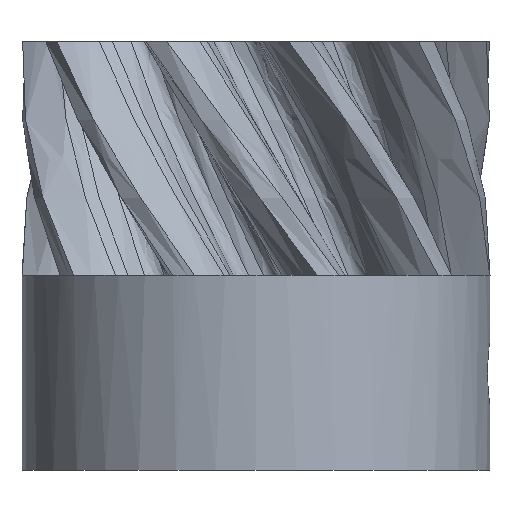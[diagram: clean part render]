
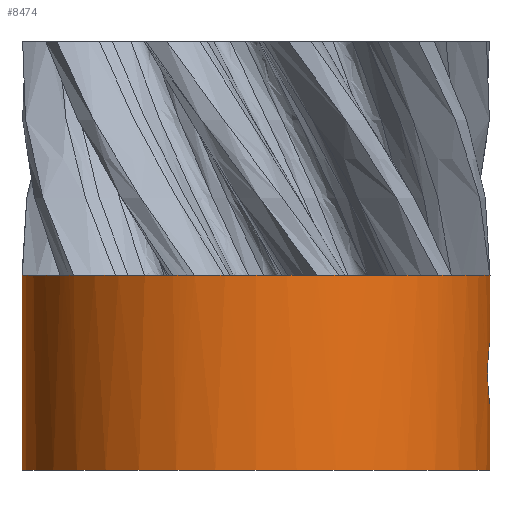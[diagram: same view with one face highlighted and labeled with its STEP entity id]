
A CAD part, front view. The second image highlights one B-rep face of the part: STEP entity #8474.
In plain terms, the highlighted cylindrical face has radius 12 mm (diameter 24 mm), a partial arc.
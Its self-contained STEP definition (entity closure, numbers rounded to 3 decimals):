
#1221=CARTESIAN_POINT('',(50.043,-6.571,59.));
#1230=CARTESIAN_POINT('',(49.353,-7.521,59.));
#1235=CARTESIAN_POINT('',(40.,0.,59.));
#1236=DIRECTION('',(0.,0.,1.));
#1237=DIRECTION('',(0.779,-0.627,0.));
#1238=AXIS2_PLACEMENT_3D('',#1235,#1236,#1237);
#1319=CARTESIAN_POINT('',(44.263,-11.219,59.));
#1328=CARTESIAN_POINT('',(43.146,-11.582,59.));
#1333=CARTESIAN_POINT('',(40.,0.,59.));
#1334=DIRECTION('',(0.,0.,1.));
#1335=DIRECTION('',(0.262,-0.965,0.));
#1336=AXIS2_PLACEMENT_3D('',#1333,#1334,#1335);
#1417=CARTESIAN_POINT('',(36.854,-11.582,59.));
#1426=CARTESIAN_POINT('',(35.737,-11.219,59.));
#1431=CARTESIAN_POINT('',(40.,0.,59.));
#1432=DIRECTION('',(0.,0.,1.));
#1433=DIRECTION('',(-0.355,-0.935,0.));
#1434=AXIS2_PLACEMENT_3D('',#1431,#1432,#1433);
#1515=CARTESIAN_POINT('',(30.647,-7.521,59.));
#1524=CARTESIAN_POINT('',(29.957,-6.571,59.));
#1529=CARTESIAN_POINT('',(40.,0.,59.));
#1530=DIRECTION('',(0.,0.,1.));
#1531=DIRECTION('',(-0.837,-0.547,0.));
#1532=AXIS2_PLACEMENT_3D('',#1529,#1530,#1531);
#1613=CARTESIAN_POINT('',(28.013,-0.587,59.));
#2127=CARTESIAN_POINT('',(40.,0.,59.));
#2128=DIRECTION('',(0.,0.,1.));
#2129=DIRECTION('',(0.837,-0.547,0.));
#2130=AXIS2_PLACEMENT_3D('',#2127,#2128,#2129);
#2201=CARTESIAN_POINT('',(51.987,-0.587,59.));
#2209=CARTESIAN_POINT('',(51.879,-1.7,54.));
#2210=CARTESIAN_POINT('',(51.879,-1.7,53.871));
#2211=CARTESIAN_POINT('',(51.883,-1.671,53.622));
#2212=CARTESIAN_POINT('',(51.899,-1.553,53.279));
#2213=CARTESIAN_POINT('',(51.923,-1.363,52.959));
#2214=CARTESIAN_POINT('',(51.952,-1.087,52.673));
#2215=CARTESIAN_POINT('',(51.977,-0.765,
52.467));
#2216=CARTESIAN_POINT('',(51.995,-0.409,
52.335));
#2217=CARTESIAN_POINT('',(52.,-0.141,52.3));
#2218=CARTESIAN_POINT('',(52.,0.,52.3));
#2223=DIRECTION('',(0.,0.,1.));
#2224=VECTOR('',#2223,3.3);
#2225=CARTESIAN_POINT('',(52.,0.,49.));
#2226=LINE('',#2225,#2224);
#2230=CARTESIAN_POINT('',(40.,0.,59.));
#2231=DIRECTION('',(0.,0.,-1.));
#2232=DIRECTION('',(-0.999,-0.049,0.));
#2233=AXIS2_PLACEMENT_3D('',#2230,#2231,#2232);
#2238=CARTESIAN_POINT('',(40.,0.,59.));
#2239=DIRECTION('',(0.,0.,-1.));
#2240=DIRECTION('',(1.,0.,0.));
#2241=AXIS2_PLACEMENT_3D('',#2238,#2239,#2240);
#2246=DIRECTION('',(0.,0.,1.));
#2247=VECTOR('',#2246,3.3);
#2248=CARTESIAN_POINT('',(52.,0.,55.7));
#2249=LINE('',#2248,#2247);
#2260=CARTESIAN_POINT('',(51.879,-1.7,54.));
#2261=CARTESIAN_POINT('',(51.879,-1.7,54.132));
#2262=CARTESIAN_POINT('',(51.884,-1.669,54.392));
#2263=CARTESIAN_POINT('',(51.901,-1.543,54.747));
#2264=CARTESIAN_POINT('',(51.927,-1.334,55.08));
#2265=CARTESIAN_POINT('',(51.956,-1.04,55.364));
#2266=CARTESIAN_POINT('',(51.98,-0.717,
55.556));
#2267=CARTESIAN_POINT('',(51.996,-0.364,
55.674));
#2268=CARTESIAN_POINT('',(52.,-0.121,55.7));
#2269=CARTESIAN_POINT('',(52.,0.,55.7));
#2419=CARTESIAN_POINT('',(40.,0.,49.));
#2420=DIRECTION('',(0.,0.,1.));
#2421=DIRECTION('',(-1.,0.,0.));
#2422=AXIS2_PLACEMENT_3D('',#2419,#2420,#2421);
#2494=DIRECTION('',(0.,0.,1.));
#2495=VECTOR('',#2494,10.);
#2496=CARTESIAN_POINT('',(28.,0.,49.));
#2497=LINE('',#2496,#2495);
#3006=CARTESIAN_POINT('',(40.,0.,59.));
#3007=DIRECTION('',(0.,0.,1.));
#3008=DIRECTION('',(-0.999,-0.049,0.));
#3009=AXIS2_PLACEMENT_3D('',#3006,#3007,#3008);
#3088=CARTESIAN_POINT('',(40.,0.,59.));
#3089=DIRECTION('',(0.,0.,1.));
#3090=DIRECTION('',(-0.779,-0.627,0.));
#3091=AXIS2_PLACEMENT_3D('',#3088,#3089,#3090);
#3170=CARTESIAN_POINT('',(40.,0.,59.));
#3171=DIRECTION('',(0.,0.,1.));
#3172=DIRECTION('',(-0.262,-0.965,0.));
#3173=AXIS2_PLACEMENT_3D('',#3170,#3171,#3172);
#3252=CARTESIAN_POINT('',(40.,0.,59.));
#3253=DIRECTION('',(0.,0.,1.));
#3254=DIRECTION('',(0.355,-0.935,0.));
#3255=AXIS2_PLACEMENT_3D('',#3252,#3253,#3254);
#3461=VERTEX_POINT('',#2201);
#3468=VERTEX_POINT('',#1221);
#3471=VERTEX_POINT('',#1230);
#3490=VERTEX_POINT('',#1319);
#3493=VERTEX_POINT('',#1328);
#3512=VERTEX_POINT('',#1417);
#3515=VERTEX_POINT('',#1426);
#3534=VERTEX_POINT('',#1515);
#3537=VERTEX_POINT('',#1524);
#3556=VERTEX_POINT('',#1613);
#3576=VERTEX_POINT('',#2260);
#3577=VERTEX_POINT('',#2269);
#3605=CARTESIAN_POINT('',(28.,0.,49.));
#3606=CARTESIAN_POINT('',(27.999,0.,59.));
#3607=VERTEX_POINT('',#3605);
#3608=VERTEX_POINT('',#3606);
#3609=CARTESIAN_POINT('',(52.,0.,49.));
#3610=VERTEX_POINT('',#3609);
#3611=CARTESIAN_POINT('',(52.,0.,52.3));
#3612=VERTEX_POINT('',#3611);
#3613=CARTESIAN_POINT('',(52.001,0.,59.));
#3614=VERTEX_POINT('',#3613);
#8440=CARTESIAN_POINT('',(40.,0.,49.));
#8441=DIRECTION('',(0.,0.,1.));
#8442=DIRECTION('',(1.,0.,0.));
#8443=AXIS2_PLACEMENT_3D('',#8440,#8441,#8442);
#8444=CYLINDRICAL_SURFACE('',#8443,12.);
#8446=ORIENTED_EDGE('',*,*,#8445,.T.);
#8448=ORIENTED_EDGE('',*,*,#8447,.F.);
#8450=ORIENTED_EDGE('',*,*,#8449,.F.);
#8452=ORIENTED_EDGE('',*,*,#8451,.T.);
#8453=ORIENTED_EDGE('',*,*,#6025,.F.);
#8455=ORIENTED_EDGE('',*,*,#8454,.T.);
#8456=ORIENTED_EDGE('',*,*,#5569,.T.);
#8458=ORIENTED_EDGE('',*,*,#8457,.T.);
#8459=ORIENTED_EDGE('',*,*,#5113,.T.);
#8461=ORIENTED_EDGE('',*,*,#8460,.T.);
#8462=ORIENTED_EDGE('',*,*,#4657,.T.);
#8464=ORIENTED_EDGE('',*,*,#8463,.T.);
#8465=ORIENTED_EDGE('',*,*,#4201,.T.);
#8466=ORIENTED_EDGE('',*,*,#8414,.T.);
#8467=ORIENTED_EDGE('',*,*,#8309,.F.);
#8469=ORIENTED_EDGE('',*,*,#8468,.F.);
#8471=ORIENTED_EDGE('',*,*,#8470,.F.);
#8472=EDGE_LOOP('',(#8446,#8448,#8450,#8452,#8453,#8455,#8456,#8458,#8459,#8461,
#8462,#8464,#8465,#8466,#8467,#8469,#8471));
#8473=FACE_OUTER_BOUND('',#8472,.F.);
#1239=CIRCLE('',#1238,12.);
#1337=CIRCLE('',#1336,12.);
#1435=CIRCLE('',#1434,12.);
#1533=CIRCLE('',#1532,12.);
#2131=CIRCLE('',#2130,12.);
#2219=B_SPLINE_CURVE_WITH_KNOTS('',3,(#2209,#2210,#2211,#2212,#2213,#2214,#2215,
#2216,#2217,#2218),.UNSPECIFIED.,.F.,.F.,(4,1,1,1,1,1,1,4),(0.,
0.143,0.286,0.429,0.571,
0.714,0.857,1.),.UNSPECIFIED.);
#2234=CIRCLE('',#2233,12.);
#2242=CIRCLE('',#2241,12.);
#2270=B_SPLINE_CURVE_WITH_KNOTS('',3,(#2260,#2261,#2262,#2263,#2264,#2265,#2266,
#2267,#2268,#2269),.UNSPECIFIED.,.F.,.F.,(4,1,1,1,1,1,1,4),(0.,
0.143,0.286,0.429,0.571,
0.714,0.857,1.),.UNSPECIFIED.);
#2423=CIRCLE('',#2422,12.);
#3010=CIRCLE('',#3009,12.);
#3092=CIRCLE('',#3091,12.);
#3174=CIRCLE('',#3173,12.);
#3256=CIRCLE('',#3255,12.);
#4201=EDGE_CURVE('',#3471,#3468,#1239,.T.);
#4657=EDGE_CURVE('',#3493,#3490,#1337,.T.);
#5113=EDGE_CURVE('',#3515,#3512,#1435,.T.);
#5569=EDGE_CURVE('',#3537,#3534,#1533,.T.);
#6025=EDGE_CURVE('',#3556,#3608,#2234,.T.);
#8309=EDGE_CURVE('',#3614,#3461,#2242,.T.);
#8414=EDGE_CURVE('',#3468,#3461,#2131,.T.);
#8445=EDGE_CURVE('',#3576,#3612,#2219,.T.);
#8447=EDGE_CURVE('',#3610,#3612,#2226,.T.);
#8449=EDGE_CURVE('',#3607,#3610,#2423,.T.);
#8451=EDGE_CURVE('',#3607,#3608,#2497,.T.);
#8454=EDGE_CURVE('',#3556,#3537,#3010,.T.);
#8457=EDGE_CURVE('',#3534,#3515,#3092,.T.);
#8460=EDGE_CURVE('',#3512,#3493,#3174,.T.);
#8463=EDGE_CURVE('',#3490,#3471,#3256,.T.);
#8468=EDGE_CURVE('',#3577,#3614,#2249,.T.);
#8470=EDGE_CURVE('',#3576,#3577,#2270,.T.);
#8474=ADVANCED_FACE('',(#8473),#8444,.T.);
